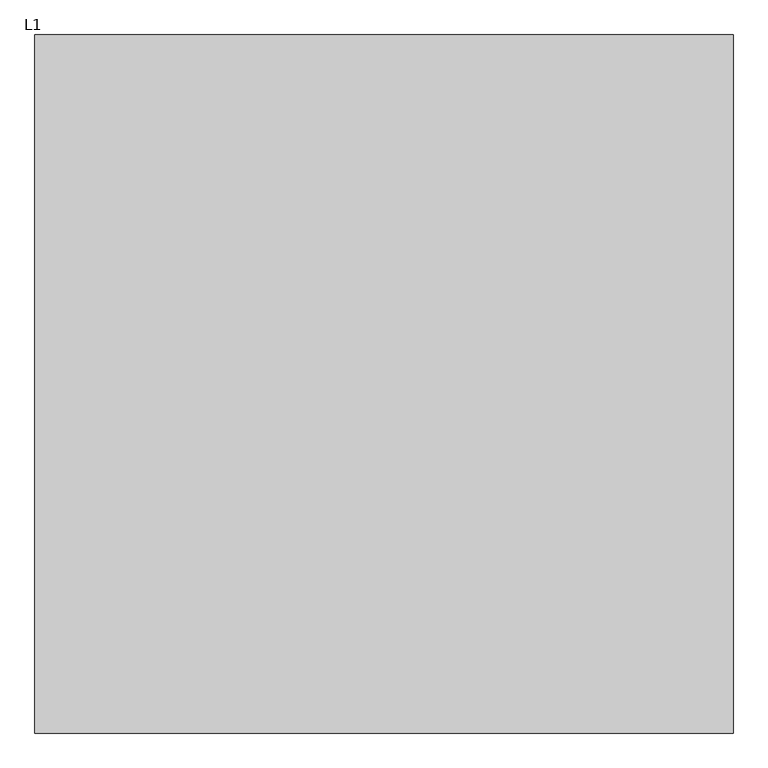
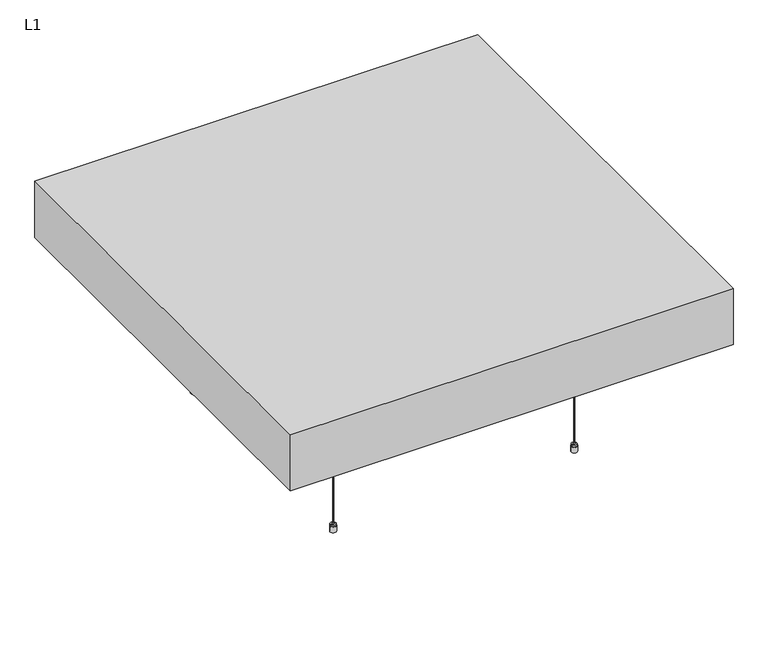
"""IFC4 building model written with IfcOpenShell, lengths in millimetres: proxy geometry, OWA Corpus : L1."""

from ifc_helpers import new_model, si_unit, point, frame, frame_2d, origin, place, context, project, spatial, polyline, circle_curve, trimmed, segment, composite_curve, outline, extrude, faceted_brep, source, transform, mapped, element, save
from ifc_brep_helpers import plane_surface, cylinder_surface, revolved_surface, advanced_brep


def l1_61a87858(model_context):
    return source(origin(), model_context, "Body", "SolidModel", [
        advanced_brep(
        [(-128.5, -305.0, 0.0), (-120.7593825, -305.0, 0.0), (-136.2406175, -305.0, 0.0), (-120.7593825, -305.0, 15.0), (-136.2406175, -305.0, 15.0), (-121.6843825, -305.0, 15.0), (-135.3156175, -305.0, 15.0), (-121.6843825, -305.0, 19.0), (-135.3156175, -305.0, 19.0), (-126.4343825, -305.0, 19.0), (-130.5656175, -305.0, 19.0), (-126.4343825, -305.0, 22.546183), (-130.5656175, -305.0, 22.546183), (-128.5, -305.0, 22.546183)],
        [
            (0, 1),
            (1, 2, circle_curve(frame((-128.5, -305.0, 0.0), z_axis=(0.0, 0.0, -1.0), x_axis=(-1.0, 0.0, 0.0)), 7.7406175)),
            (2, 0),
            (2, 1, circle_curve(frame((-128.5, -305.0, 0.0), z_axis=(0.0, 0.0, -1.0), x_axis=(-1.0, 0.0, 0.0)), 7.7406175)),
            (1, 3),
            (3, 4, circle_curve(frame((-128.5, -305.0, 15.0), z_axis=(0.0, 0.0, -1.0), x_axis=(-1.0, 0.0, 0.0)), 7.7406175)),
            (4, 2),
            (4, 3, circle_curve(frame((-128.5, -305.0, 15.0), z_axis=(0.0, 0.0, -1.0), x_axis=(-1.0, 0.0, 0.0)), 7.7406175)),
            (3, 5),
            (5, 6, circle_curve(frame((-128.5, -305.0, 15.0), z_axis=(0.0, 0.0, -1.0), x_axis=(-1.0, 0.0, 0.0)), 6.8156175)),
            (6, 4),
            (6, 5, circle_curve(frame((-128.5, -305.0, 15.0), z_axis=(0.0, 0.0, -1.0), x_axis=(-1.0, 0.0, 0.0)), 6.8156175)),
            (5, 7),
            (7, 8, circle_curve(frame((-128.5, -305.0, 19.0), z_axis=(0.0, 0.0, -1.0), x_axis=(-1.0, 0.0, 0.0)), 6.8156175)),
            (8, 6),
            (8, 7, circle_curve(frame((-128.5, -305.0, 19.0), z_axis=(0.0, 0.0, -1.0), x_axis=(-1.0, 0.0, 0.0)), 6.8156175)),
            (7, 9),
            (9, 10, circle_curve(frame((-128.5, -305.0, 19.0), z_axis=(0.0, 0.0, -1.0), x_axis=(-1.0, 0.0, 0.0)), 2.0656175)),
            (10, 8),
            (10, 9, circle_curve(frame((-128.5, -305.0, 19.0), z_axis=(0.0, 0.0, -1.0), x_axis=(-1.0, 0.0, 0.0)), 2.0656175)),
            (9, 11),
            (11, 12, circle_curve(frame((-128.5, -305.0, 22.546183), z_axis=(0.0, 0.0, -1.0), x_axis=(-1.0, 0.0, 0.0)), 2.0656175)),
            (12, 10),
            (12, 11, circle_curve(frame((-128.5, -305.0, 22.546183), z_axis=(0.0, 0.0, -1.0), x_axis=(-1.0, 0.0, 0.0)), 2.0656175)),
            (11, 13),
            (13, 12),
        ],
        [
            plane_surface(frame((-128.5, -305.0, 0.0), z_axis=(0.0, 0.0, -1.0), x_axis=(-1.0, 0.0, 0.0))),
            cylinder_surface(frame((-128.5, -305.0, -10.0), z_axis=(0.0, 0.0, -1.0), x_axis=(-1.0, 0.0, 0.0)), 7.7406175),
            plane_surface(frame((-128.5, -305.0, 15.0), z_axis=(0.0, 0.0, 1.0), x_axis=(-1.0, 0.0, 0.0))),
            cylinder_surface(frame((-128.5, -305.0, -10.0), z_axis=(0.0, 0.0, -1.0), x_axis=(-1.0, 0.0, 0.0)), 6.8156175),
            plane_surface(frame((-128.5, -305.0, 19.0), z_axis=(0.0, 0.0, 1.0), x_axis=(-1.0, 0.0, 0.0))),
            cylinder_surface(frame((-128.5, -305.0, -10.0), z_axis=(0.0, 0.0, -1.0), x_axis=(-1.0, 0.0, 0.0)), 2.0656175),
            plane_surface(frame((-128.5, -305.0, 22.546183), z_axis=(0.0, 0.0, 1.0), x_axis=(-1.0, 0.0, 0.0))),
        ],
        [
            (0, [[1, 2, 3]]),
            (0, [[-3, 4, -1]]),
            (1, [[5, 6, 7, -2]]),
            (1, [[-7, 8, -5, -4]]),
            (2, [[9, 10, 11, -6]]),
            (2, [[-11, 12, -9, -8]]),
            (3, [[13, 14, 15, -10]]),
            (3, [[-15, 16, -13, -12]]),
            (4, [[17, 18, 19, -14]]),
            (4, [[-19, 20, -17, -16]]),
            (5, [[21, 22, 23, -18]]),
            (5, [[-23, 24, -21, -20]]),
            (6, [[25, 26, -22]]),
            (6, [[-26, -25, -24]]),
        ],
    ),
        advanced_brep(
        [(-126.2615389, -305.0, 428.8211737), (-126.1339453, -305.0, 432.8711737), (-130.8660547, -305.0, 432.8711737), (-130.7384611, -305.0, 428.8211737), (-123.6339453, -305.0, 432.8711737), (-133.3660547, -305.0, 432.8711737), (-123.6339453, -305.0, 458.1211737), (-133.3660547, -305.0, 458.1211737), (-112.6339453, -305.0, 458.1211737), (-144.3660547, -305.0, 458.1211737), (-112.6339453, -305.0, 460.0), (-144.3660547, -305.0, 460.0), (-128.5, -305.0, 460.0), (-128.5, -305.0, 428.8211737)],
        [
            (0, 1),
            (1, 2, circle_curve(frame((-128.5, -305.0, 432.8711737), z_axis=(0.0, 0.0, -1.0), x_axis=(-1.0, 0.0, 0.0)), 2.3660547)),
            (2, 3),
            (3, 0, circle_curve(frame((-128.5, -305.0, 428.8211737), z_axis=(0.0, 0.0, 1.0), x_axis=(-1.0, 0.0, 0.0)), 2.2384611)),
            (2, 1, circle_curve(frame((-128.5, -305.0, 432.8711737), z_axis=(0.0, 0.0, -1.0), x_axis=(-1.0, 0.0, 0.0)), 2.3660547)),
            (0, 3, circle_curve(frame((-128.5, -305.0, 428.8211737), z_axis=(0.0, 0.0, 1.0), x_axis=(-1.0, 0.0, 0.0)), 2.2384611)),
            (1, 4),
            (4, 5, circle_curve(frame((-128.5, -305.0, 432.8711737), z_axis=(0.0, 0.0, -1.0), x_axis=(-1.0, 0.0, 0.0)), 4.8660547)),
            (5, 2),
            (5, 4, circle_curve(frame((-128.5, -305.0, 432.8711737), z_axis=(0.0, 0.0, -1.0), x_axis=(-1.0, 0.0, 0.0)), 4.8660547)),
            (4, 6),
            (6, 7, circle_curve(frame((-128.5, -305.0, 458.1211737), z_axis=(0.0, 0.0, -1.0), x_axis=(-1.0, 0.0, 0.0)), 4.8660547)),
            (7, 5),
            (7, 6, circle_curve(frame((-128.5, -305.0, 458.1211737), z_axis=(0.0, 0.0, -1.0), x_axis=(-1.0, 0.0, 0.0)), 4.8660547)),
            (6, 8),
            (8, 9, circle_curve(frame((-128.5, -305.0, 458.1211737), z_axis=(0.0, 0.0, -1.0), x_axis=(-1.0, 0.0, 0.0)), 15.8660547)),
            (9, 7),
            (9, 8, circle_curve(frame((-128.5, -305.0, 458.1211737), z_axis=(0.0, 0.0, -1.0), x_axis=(-1.0, 0.0, 0.0)), 15.8660547)),
            (8, 10),
            (10, 11, circle_curve(frame((-128.5, -305.0, 460.0), z_axis=(0.0, 0.0, -1.0), x_axis=(-1.0, 0.0, 0.0)), 15.8660547)),
            (11, 9),
            (11, 10, circle_curve(frame((-128.5, -305.0, 460.0), z_axis=(0.0, 0.0, -1.0), x_axis=(-1.0, 0.0, 0.0)), 15.8660547)),
            (10, 12),
            (12, 11),
            (13, 0),
            (3, 13),
        ],
        [
            revolved_surface(polyline([(-130.8660547, -305.0, 432.8711737), (-130.7384611, -305.0, 428.8211737)]), (-128.5, -305.0, 461.8401096), (0.0, 0.0, -1.0)),
            plane_surface(frame((-128.5, -305.0, 432.8711737), z_axis=(0.0, 0.0, -1.0), x_axis=(-1.0, 0.0, 0.0))),
            cylinder_surface(frame((-128.5, -305.0, 461.8401096), z_axis=(0.0, 0.0, -1.0), x_axis=(-1.0, 0.0, 0.0)), 4.8660547),
            plane_surface(frame((-128.5, -305.0, 458.1211737), z_axis=(0.0, 0.0, -1.0), x_axis=(-1.0, 0.0, 0.0))),
            cylinder_surface(frame((-128.5, -305.0, 461.8401096), z_axis=(0.0, 0.0, -1.0), x_axis=(-1.0, 0.0, 0.0)), 15.8660547),
            plane_surface(frame((-128.5, -305.0, 460.0), z_axis=(0.0, 0.0, 1.0), x_axis=(-1.0, 0.0, 0.0))),
            plane_surface(frame((-128.5, -305.0, 428.8211737), z_axis=(0.0, 0.0, -1.0), x_axis=(-1.0, 0.0, 0.0))),
        ],
        [
            (0, [[1, 2, 3, 4]]),
            (0, [[-3, 5, -1, 6]]),
            (1, [[7, 8, 9, -2]]),
            (1, [[-9, 10, -7, -5]]),
            (2, [[11, 12, 13, -8]]),
            (2, [[-13, 14, -11, -10]]),
            (3, [[15, 16, 17, -12]]),
            (3, [[-17, 18, -15, -14]]),
            (4, [[19, 20, 21, -16]]),
            (4, [[-21, 22, -19, -18]]),
            (5, [[23, 24, -20]]),
            (5, [[-24, -23, -22]]),
            (6, [[25, -4, 26]]),
            (6, [[-26, -6, -25]]),
        ],
    ),
        extrude(outline(composite_curve([segment(trimmed(circle_curve(frame_2d((-128.5, -305.0)), 1.0), [point((-129.5, -305.0))], [point((-127.5, -305.0))], False, "CARTESIAN"), True, "CONTINUOUS"), segment(trimmed(circle_curve(frame_2d((-128.5, -305.0)), 1.0), [point((-127.5, -305.0))], [point((-129.5, -305.0))], False, "CARTESIAN"), True, "CONTINUOUS")], self_intersect=False)), frame((0.0, 0.0, 22.546183), z_axis=(0.0, 0.0, 1.0), x_axis=(1.0, 0.0, 0.0)), (0.0, 0.0, 1.0), 406.2749908),
        advanced_brep(
        [(-128.5, 305.0, 0.0), (-136.2406175, 305.0, 0.0), (-120.7593825, 305.0, 0.0), (-136.2406175, 305.0, 15.0), (-120.7593825, 305.0, 15.0), (-135.3156175, 305.0, 15.0), (-121.6843825, 305.0, 15.0), (-135.3156175, 305.0, 19.0), (-121.6843825, 305.0, 19.0), (-130.5656175, 305.0, 19.0), (-126.4343825, 305.0, 19.0), (-130.5656175, 305.0, 22.546183), (-126.4343825, 305.0, 22.546183), (-128.5, 305.0, 22.546183)],
        [
            (0, 1),
            (1, 2, circle_curve(frame((-128.5, 305.0, 0.0), z_axis=(0.0, 0.0, -1.0), x_axis=(-1.0, 0.0, 0.0)), 7.7406175)),
            (2, 0),
            (2, 1, circle_curve(frame((-128.5, 305.0, 0.0), z_axis=(0.0, 0.0, -1.0), x_axis=(-1.0, 0.0, 0.0)), 7.7406175)),
            (1, 3),
            (3, 4, circle_curve(frame((-128.5, 305.0, 15.0), z_axis=(0.0, 0.0, -1.0), x_axis=(-1.0, 0.0, 0.0)), 7.7406175)),
            (4, 2),
            (4, 3, circle_curve(frame((-128.5, 305.0, 15.0), z_axis=(0.0, 0.0, -1.0), x_axis=(-1.0, 0.0, 0.0)), 7.7406175)),
            (3, 5),
            (5, 6, circle_curve(frame((-128.5, 305.0, 15.0), z_axis=(0.0, 0.0, -1.0), x_axis=(-1.0, 0.0, 0.0)), 6.8156175)),
            (6, 4),
            (6, 5, circle_curve(frame((-128.5, 305.0, 15.0), z_axis=(0.0, 0.0, -1.0), x_axis=(-1.0, 0.0, 0.0)), 6.8156175)),
            (5, 7),
            (7, 8, circle_curve(frame((-128.5, 305.0, 19.0), z_axis=(0.0, 0.0, -1.0), x_axis=(-1.0, 0.0, 0.0)), 6.8156175)),
            (8, 6),
            (8, 7, circle_curve(frame((-128.5, 305.0, 19.0), z_axis=(0.0, 0.0, -1.0), x_axis=(-1.0, 0.0, 0.0)), 6.8156175)),
            (7, 9),
            (9, 10, circle_curve(frame((-128.5, 305.0, 19.0), z_axis=(0.0, 0.0, -1.0), x_axis=(-1.0, 0.0, 0.0)), 2.0656175)),
            (10, 8),
            (10, 9, circle_curve(frame((-128.5, 305.0, 19.0), z_axis=(0.0, 0.0, -1.0), x_axis=(-1.0, 0.0, 0.0)), 2.0656175)),
            (9, 11),
            (11, 12, circle_curve(frame((-128.5, 305.0, 22.546183), z_axis=(0.0, 0.0, -1.0), x_axis=(-1.0, 0.0, 0.0)), 2.0656175)),
            (12, 10),
            (12, 11, circle_curve(frame((-128.5, 305.0, 22.546183), z_axis=(0.0, 0.0, -1.0), x_axis=(-1.0, 0.0, 0.0)), 2.0656175)),
            (11, 13),
            (13, 12),
        ],
        [
            plane_surface(frame((-128.5, 305.0, 0.0), z_axis=(0.0, 0.0, -1.0), x_axis=(-1.0, 0.0, 0.0))),
            cylinder_surface(frame((-128.5, 305.0, -10.0), z_axis=(0.0, 0.0, -1.0), x_axis=(-1.0, 0.0, 0.0)), 7.7406175),
            plane_surface(frame((-128.5, 305.0, 15.0), z_axis=(0.0, 0.0, 1.0), x_axis=(-1.0, 0.0, 0.0))),
            cylinder_surface(frame((-128.5, 305.0, -10.0), z_axis=(0.0, 0.0, -1.0), x_axis=(-1.0, 0.0, 0.0)), 6.8156175),
            plane_surface(frame((-128.5, 305.0, 19.0), z_axis=(0.0, 0.0, 1.0), x_axis=(-1.0, 0.0, 0.0))),
            cylinder_surface(frame((-128.5, 305.0, -10.0), z_axis=(0.0, 0.0, -1.0), x_axis=(-1.0, 0.0, 0.0)), 2.0656175),
            plane_surface(frame((-128.5, 305.0, 22.546183), z_axis=(0.0, 0.0, 1.0), x_axis=(-1.0, 0.0, 0.0))),
        ],
        [
            (0, [[1, 2, 3]]),
            (0, [[-3, 4, -1]]),
            (1, [[-2, 5, 6, 7]]),
            (1, [[-4, -7, 8, -5]]),
            (2, [[-6, 9, 10, 11]]),
            (2, [[-8, -11, 12, -9]]),
            (3, [[-10, 13, 14, 15]]),
            (3, [[-12, -15, 16, -13]]),
            (4, [[-14, 17, 18, 19]]),
            (4, [[-16, -19, 20, -17]]),
            (5, [[-18, 21, 22, 23]]),
            (5, [[-20, -23, 24, -21]]),
            (6, [[-22, 25, 26]]),
            (6, [[-24, -26, -25]]),
        ],
    ),
        advanced_brep(
        [(-126.2615389, 305.0, 428.8211737), (-130.7384611, 305.0, 428.8211737), (-130.8660547, 305.0, 432.8711737), (-126.1339453, 305.0, 432.8711737), (-133.3660547, 305.0, 432.8711737), (-123.6339453, 305.0, 432.8711737), (-133.3660547, 305.0, 458.1211737), (-123.6339453, 305.0, 458.1211737), (-144.3660547, 305.0, 458.1211737), (-112.6339453, 305.0, 458.1211737), (-144.3660547, 305.0, 460.0), (-112.6339453, 305.0, 460.0), (-128.5, 305.0, 460.0), (-128.5, 305.0, 428.8211737)],
        [
            (0, 1, circle_curve(frame((-128.5, 305.0, 428.8211737), z_axis=(0.0, 0.0, 1.0), x_axis=(-1.0, 0.0, 0.0)), 2.2384611)),
            (1, 2),
            (2, 3, circle_curve(frame((-128.5, 305.0, 432.8711737), z_axis=(0.0, 0.0, -1.0), x_axis=(-1.0, 0.0, 0.0)), 2.3660547)),
            (3, 0),
            (1, 0, circle_curve(frame((-128.5, 305.0, 428.8211737), z_axis=(0.0, 0.0, 1.0), x_axis=(-1.0, 0.0, 0.0)), 2.2384611)),
            (3, 2, circle_curve(frame((-128.5, 305.0, 432.8711737), z_axis=(0.0, 0.0, -1.0), x_axis=(-1.0, 0.0, 0.0)), 2.3660547)),
            (2, 4),
            (4, 5, circle_curve(frame((-128.5, 305.0, 432.8711737), z_axis=(0.0, 0.0, -1.0), x_axis=(-1.0, 0.0, 0.0)), 4.8660547)),
            (5, 3),
            (5, 4, circle_curve(frame((-128.5, 305.0, 432.8711737), z_axis=(0.0, 0.0, -1.0), x_axis=(-1.0, 0.0, 0.0)), 4.8660547)),
            (4, 6),
            (6, 7, circle_curve(frame((-128.5, 305.0, 458.1211737), z_axis=(0.0, 0.0, -1.0), x_axis=(-1.0, 0.0, 0.0)), 4.8660547)),
            (7, 5),
            (7, 6, circle_curve(frame((-128.5, 305.0, 458.1211737), z_axis=(0.0, 0.0, -1.0), x_axis=(-1.0, 0.0, 0.0)), 4.8660547)),
            (6, 8),
            (8, 9, circle_curve(frame((-128.5, 305.0, 458.1211737), z_axis=(0.0, 0.0, -1.0), x_axis=(-1.0, 0.0, 0.0)), 15.8660547)),
            (9, 7),
            (9, 8, circle_curve(frame((-128.5, 305.0, 458.1211737), z_axis=(0.0, 0.0, -1.0), x_axis=(-1.0, 0.0, 0.0)), 15.8660547)),
            (8, 10),
            (10, 11, circle_curve(frame((-128.5, 305.0, 460.0), z_axis=(0.0, 0.0, -1.0), x_axis=(-1.0, 0.0, 0.0)), 15.8660547)),
            (11, 9),
            (11, 10, circle_curve(frame((-128.5, 305.0, 460.0), z_axis=(0.0, 0.0, -1.0), x_axis=(-1.0, 0.0, 0.0)), 15.8660547)),
            (10, 12),
            (12, 11),
            (13, 1),
            (0, 13),
        ],
        [
            revolved_surface(polyline([(-130.8660547, 305.0, 432.8711737), (-130.7384611, 305.0, 428.8211737)]), (-128.5, 305.0, 461.8401096), (0.0, 0.0, -1.0)),
            plane_surface(frame((-128.5, 305.0, 432.8711737), z_axis=(0.0, 0.0, -1.0), x_axis=(-1.0, 0.0, 0.0))),
            cylinder_surface(frame((-128.5, 305.0, 461.8401096), z_axis=(0.0, 0.0, -1.0), x_axis=(-1.0, 0.0, 0.0)), 4.8660547),
            plane_surface(frame((-128.5, 305.0, 458.1211737), z_axis=(0.0, 0.0, -1.0), x_axis=(-1.0, 0.0, 0.0))),
            cylinder_surface(frame((-128.5, 305.0, 461.8401096), z_axis=(0.0, 0.0, -1.0), x_axis=(-1.0, 0.0, 0.0)), 15.8660547),
            plane_surface(frame((-128.5, 305.0, 460.0), z_axis=(0.0, 0.0, 1.0), x_axis=(-1.0, 0.0, 0.0))),
            plane_surface(frame((-128.5, 305.0, 428.8211737), z_axis=(0.0, 0.0, -1.0), x_axis=(-1.0, 0.0, 0.0))),
        ],
        [
            (0, [[1, 2, 3, 4]]),
            (0, [[5, -4, 6, -2]]),
            (1, [[-3, 7, 8, 9]]),
            (1, [[-6, -9, 10, -7]]),
            (2, [[-8, 11, 12, 13]]),
            (2, [[-10, -13, 14, -11]]),
            (3, [[-12, 15, 16, 17]]),
            (3, [[-14, -17, 18, -15]]),
            (4, [[-16, 19, 20, 21]]),
            (4, [[-18, -21, 22, -19]]),
            (5, [[-20, 23, 24]]),
            (5, [[-22, -24, -23]]),
            (6, [[25, -1, 26]]),
            (6, [[-26, -5, -25]]),
        ],
    ),
        extrude(outline(composite_curve([segment(trimmed(circle_curve(frame_2d((-128.5, 305.0)), 1.0), [point((-129.5, 305.0))], [point((-127.5, 305.0))], False, "CARTESIAN"), True, "CONTINUOUS"), segment(trimmed(circle_curve(frame_2d((-128.5, 305.0)), 1.0), [point((-127.5, 305.0))], [point((-129.5, 305.0))], False, "CARTESIAN"), True, "CONTINUOUS")], self_intersect=False)), frame((0.0, 0.0, 22.546183), z_axis=(0.0, 0.0, 1.0), x_axis=(1.0, 0.0, 0.0)), (0.0, 0.0, 1.0), 406.2749908),
        advanced_brep(
        [(-738.5, -305.0, 0.0), (-730.7593825, -305.0, 0.0), (-746.2406175, -305.0, 0.0), (-730.7593825, -305.0, 15.0), (-746.2406175, -305.0, 15.0), (-731.6843825, -305.0, 15.0), (-745.3156175, -305.0, 15.0), (-731.6843825, -305.0, 19.0), (-745.3156175, -305.0, 19.0), (-736.4343825, -305.0, 19.0), (-740.5656175, -305.0, 19.0), (-736.4343825, -305.0, 22.546183), (-740.5656175, -305.0, 22.546183), (-738.5, -305.0, 22.546183)],
        [
            (0, 1),
            (1, 2, circle_curve(frame((-738.5, -305.0, 0.0), z_axis=(0.0, 0.0, -1.0), x_axis=(-1.0, 0.0, 0.0)), 7.7406175)),
            (2, 0),
            (2, 1, circle_curve(frame((-738.5, -305.0, 0.0), z_axis=(0.0, 0.0, -1.0), x_axis=(-1.0, 0.0, 0.0)), 7.7406175)),
            (1, 3),
            (3, 4, circle_curve(frame((-738.5, -305.0, 15.0), z_axis=(0.0, 0.0, -1.0), x_axis=(-1.0, 0.0, 0.0)), 7.7406175)),
            (4, 2),
            (4, 3, circle_curve(frame((-738.5, -305.0, 15.0), z_axis=(0.0, 0.0, -1.0), x_axis=(-1.0, 0.0, 0.0)), 7.7406175)),
            (3, 5),
            (5, 6, circle_curve(frame((-738.5, -305.0, 15.0), z_axis=(0.0, 0.0, -1.0), x_axis=(-1.0, 0.0, 0.0)), 6.8156175)),
            (6, 4),
            (6, 5, circle_curve(frame((-738.5, -305.0, 15.0), z_axis=(0.0, 0.0, -1.0), x_axis=(-1.0, 0.0, 0.0)), 6.8156175)),
            (5, 7),
            (7, 8, circle_curve(frame((-738.5, -305.0, 19.0), z_axis=(0.0, 0.0, -1.0), x_axis=(-1.0, 0.0, 0.0)), 6.8156175)),
            (8, 6),
            (8, 7, circle_curve(frame((-738.5, -305.0, 19.0), z_axis=(0.0, 0.0, -1.0), x_axis=(-1.0, 0.0, 0.0)), 6.8156175)),
            (7, 9),
            (9, 10, circle_curve(frame((-738.5, -305.0, 19.0), z_axis=(0.0, 0.0, -1.0), x_axis=(-1.0, 0.0, 0.0)), 2.0656175)),
            (10, 8),
            (10, 9, circle_curve(frame((-738.5, -305.0, 19.0), z_axis=(0.0, 0.0, -1.0), x_axis=(-1.0, 0.0, 0.0)), 2.0656175)),
            (9, 11),
            (11, 12, circle_curve(frame((-738.5, -305.0, 22.546183), z_axis=(0.0, 0.0, -1.0), x_axis=(-1.0, 0.0, 0.0)), 2.0656175)),
            (12, 10),
            (12, 11, circle_curve(frame((-738.5, -305.0, 22.546183), z_axis=(0.0, 0.0, -1.0), x_axis=(-1.0, 0.0, 0.0)), 2.0656175)),
            (11, 13),
            (13, 12),
        ],
        [
            plane_surface(frame((-738.5, -305.0, 0.0), z_axis=(0.0, 0.0, -1.0), x_axis=(-1.0, 0.0, 0.0))),
            cylinder_surface(frame((-738.5, -305.0, -10.0), z_axis=(0.0, 0.0, -1.0), x_axis=(-1.0, 0.0, 0.0)), 7.7406175),
            plane_surface(frame((-738.5, -305.0, 15.0), z_axis=(0.0, 0.0, 1.0), x_axis=(-1.0, 0.0, 0.0))),
            cylinder_surface(frame((-738.5, -305.0, -10.0), z_axis=(0.0, 0.0, -1.0), x_axis=(-1.0, 0.0, 0.0)), 6.8156175),
            plane_surface(frame((-738.5, -305.0, 19.0), z_axis=(0.0, 0.0, 1.0), x_axis=(-1.0, 0.0, 0.0))),
            cylinder_surface(frame((-738.5, -305.0, -10.0), z_axis=(0.0, 0.0, -1.0), x_axis=(-1.0, 0.0, 0.0)), 2.0656175),
            plane_surface(frame((-738.5, -305.0, 22.546183), z_axis=(0.0, 0.0, 1.0), x_axis=(-1.0, 0.0, 0.0))),
        ],
        [
            (0, [[1, 2, 3]]),
            (0, [[-3, 4, -1]]),
            (1, [[5, 6, 7, -2]]),
            (1, [[-7, 8, -5, -4]]),
            (2, [[9, 10, 11, -6]]),
            (2, [[-11, 12, -9, -8]]),
            (3, [[13, 14, 15, -10]]),
            (3, [[-15, 16, -13, -12]]),
            (4, [[17, 18, 19, -14]]),
            (4, [[-19, 20, -17, -16]]),
            (5, [[21, 22, 23, -18]]),
            (5, [[-23, 24, -21, -20]]),
            (6, [[25, 26, -22]]),
            (6, [[-26, -25, -24]]),
        ],
    ),
        advanced_brep(
        [(-736.2615389, -305.0, 428.8211737), (-736.1339453, -305.0, 432.8711737), (-740.8660547, -305.0, 432.8711737), (-740.7384611, -305.0, 428.8211737), (-733.6339453, -305.0, 432.8711737), (-743.3660547, -305.0, 432.8711737), (-733.6339453, -305.0, 458.1211737), (-743.3660547, -305.0, 458.1211737), (-722.6339453, -305.0, 458.1211737), (-754.3660547, -305.0, 458.1211737), (-722.6339453, -305.0, 460.0), (-754.3660547, -305.0, 460.0), (-738.5, -305.0, 460.0), (-738.5, -305.0, 428.8211737)],
        [
            (0, 1),
            (1, 2, circle_curve(frame((-738.5, -305.0, 432.8711737), z_axis=(0.0, 0.0, -1.0), x_axis=(-1.0, 0.0, 0.0)), 2.3660547)),
            (2, 3),
            (3, 0, circle_curve(frame((-738.5, -305.0, 428.8211737), z_axis=(0.0, 0.0, 1.0), x_axis=(-1.0, 0.0, 0.0)), 2.2384611)),
            (2, 1, circle_curve(frame((-738.5, -305.0, 432.8711737), z_axis=(0.0, 0.0, -1.0), x_axis=(-1.0, 0.0, 0.0)), 2.3660547)),
            (0, 3, circle_curve(frame((-738.5, -305.0, 428.8211737), z_axis=(0.0, 0.0, 1.0), x_axis=(-1.0, 0.0, 0.0)), 2.2384611)),
            (1, 4),
            (4, 5, circle_curve(frame((-738.5, -305.0, 432.8711737), z_axis=(0.0, 0.0, -1.0), x_axis=(-1.0, 0.0, 0.0)), 4.8660547)),
            (5, 2),
            (5, 4, circle_curve(frame((-738.5, -305.0, 432.8711737), z_axis=(0.0, 0.0, -1.0), x_axis=(-1.0, 0.0, 0.0)), 4.8660547)),
            (4, 6),
            (6, 7, circle_curve(frame((-738.5, -305.0, 458.1211737), z_axis=(0.0, 0.0, -1.0), x_axis=(-1.0, 0.0, 0.0)), 4.8660547)),
            (7, 5),
            (7, 6, circle_curve(frame((-738.5, -305.0, 458.1211737), z_axis=(0.0, 0.0, -1.0), x_axis=(-1.0, 0.0, 0.0)), 4.8660547)),
            (6, 8),
            (8, 9, circle_curve(frame((-738.5, -305.0, 458.1211737), z_axis=(0.0, 0.0, -1.0), x_axis=(-1.0, 0.0, 0.0)), 15.8660547)),
            (9, 7),
            (9, 8, circle_curve(frame((-738.5, -305.0, 458.1211737), z_axis=(0.0, 0.0, -1.0), x_axis=(-1.0, 0.0, 0.0)), 15.8660547)),
            (8, 10),
            (10, 11, circle_curve(frame((-738.5, -305.0, 460.0), z_axis=(0.0, 0.0, -1.0), x_axis=(-1.0, 0.0, 0.0)), 15.8660547)),
            (11, 9),
            (11, 10, circle_curve(frame((-738.5, -305.0, 460.0), z_axis=(0.0, 0.0, -1.0), x_axis=(-1.0, 0.0, 0.0)), 15.8660547)),
            (10, 12),
            (12, 11),
            (13, 0),
            (3, 13),
        ],
        [
            revolved_surface(polyline([(-740.8660547, -305.0, 432.8711737), (-740.7384611, -305.0, 428.8211737)]), (-738.5, -305.0, 461.8401096), (0.0, 0.0, -1.0)),
            plane_surface(frame((-738.5, -305.0, 432.8711737), z_axis=(0.0, 0.0, -1.0), x_axis=(-1.0, 0.0, 0.0))),
            cylinder_surface(frame((-738.5, -305.0, 461.8401096), z_axis=(0.0, 0.0, -1.0), x_axis=(-1.0, 0.0, 0.0)), 4.8660547),
            plane_surface(frame((-738.5, -305.0, 458.1211737), z_axis=(0.0, 0.0, -1.0), x_axis=(-1.0, 0.0, 0.0))),
            cylinder_surface(frame((-738.5, -305.0, 461.8401096), z_axis=(0.0, 0.0, -1.0), x_axis=(-1.0, 0.0, 0.0)), 15.8660547),
            plane_surface(frame((-738.5, -305.0, 460.0), z_axis=(0.0, 0.0, 1.0), x_axis=(-1.0, 0.0, 0.0))),
            plane_surface(frame((-738.5, -305.0, 428.8211737), z_axis=(0.0, 0.0, -1.0), x_axis=(-1.0, 0.0, 0.0))),
        ],
        [
            (0, [[1, 2, 3, 4]]),
            (0, [[-3, 5, -1, 6]]),
            (1, [[7, 8, 9, -2]]),
            (1, [[-9, 10, -7, -5]]),
            (2, [[11, 12, 13, -8]]),
            (2, [[-13, 14, -11, -10]]),
            (3, [[15, 16, 17, -12]]),
            (3, [[-17, 18, -15, -14]]),
            (4, [[19, 20, 21, -16]]),
            (4, [[-21, 22, -19, -18]]),
            (5, [[23, 24, -20]]),
            (5, [[-24, -23, -22]]),
            (6, [[25, -4, 26]]),
            (6, [[-26, -6, -25]]),
        ],
    ),
        extrude(outline(composite_curve([segment(trimmed(circle_curve(frame_2d((-738.5, -305.0)), 1.0), [point((-739.5, -305.0))], [point((-737.5, -305.0))], False, "CARTESIAN"), True, "CONTINUOUS"), segment(trimmed(circle_curve(frame_2d((-738.5, -305.0)), 1.0), [point((-737.5, -305.0))], [point((-739.5, -305.0))], False, "CARTESIAN"), True, "CONTINUOUS")], self_intersect=False)), frame((0.0, 0.0, 22.546183), z_axis=(0.0, 0.0, 1.0), x_axis=(1.0, 0.0, 0.0)), (0.0, 0.0, 1.0), 406.2749908),
        advanced_brep(
        [(-738.5, 305.0, 0.0), (-746.2406175, 305.0, 0.0), (-730.7593825, 305.0, 0.0), (-746.2406175, 305.0, 15.0), (-730.7593825, 305.0, 15.0), (-745.3156175, 305.0, 15.0), (-731.6843825, 305.0, 15.0), (-745.3156175, 305.0, 19.0), (-731.6843825, 305.0, 19.0), (-740.5656175, 305.0, 19.0), (-736.4343825, 305.0, 19.0), (-740.5656175, 305.0, 22.546183), (-736.4343825, 305.0, 22.546183), (-738.5, 305.0, 22.546183)],
        [
            (0, 1),
            (1, 2, circle_curve(frame((-738.5, 305.0, 0.0), z_axis=(0.0, 0.0, -1.0), x_axis=(-1.0, 0.0, 0.0)), 7.7406175)),
            (2, 0),
            (2, 1, circle_curve(frame((-738.5, 305.0, 0.0), z_axis=(0.0, 0.0, -1.0), x_axis=(-1.0, 0.0, 0.0)), 7.7406175)),
            (1, 3),
            (3, 4, circle_curve(frame((-738.5, 305.0, 15.0), z_axis=(0.0, 0.0, -1.0), x_axis=(-1.0, 0.0, 0.0)), 7.7406175)),
            (4, 2),
            (4, 3, circle_curve(frame((-738.5, 305.0, 15.0), z_axis=(0.0, 0.0, -1.0), x_axis=(-1.0, 0.0, 0.0)), 7.7406175)),
            (3, 5),
            (5, 6, circle_curve(frame((-738.5, 305.0, 15.0), z_axis=(0.0, 0.0, -1.0), x_axis=(-1.0, 0.0, 0.0)), 6.8156175)),
            (6, 4),
            (6, 5, circle_curve(frame((-738.5, 305.0, 15.0), z_axis=(0.0, 0.0, -1.0), x_axis=(-1.0, 0.0, 0.0)), 6.8156175)),
            (5, 7),
            (7, 8, circle_curve(frame((-738.5, 305.0, 19.0), z_axis=(0.0, 0.0, -1.0), x_axis=(-1.0, 0.0, 0.0)), 6.8156175)),
            (8, 6),
            (8, 7, circle_curve(frame((-738.5, 305.0, 19.0), z_axis=(0.0, 0.0, -1.0), x_axis=(-1.0, 0.0, 0.0)), 6.8156175)),
            (7, 9),
            (9, 10, circle_curve(frame((-738.5, 305.0, 19.0), z_axis=(0.0, 0.0, -1.0), x_axis=(-1.0, 0.0, 0.0)), 2.0656175)),
            (10, 8),
            (10, 9, circle_curve(frame((-738.5, 305.0, 19.0), z_axis=(0.0, 0.0, -1.0), x_axis=(-1.0, 0.0, 0.0)), 2.0656175)),
            (9, 11),
            (11, 12, circle_curve(frame((-738.5, 305.0, 22.546183), z_axis=(0.0, 0.0, -1.0), x_axis=(-1.0, 0.0, 0.0)), 2.0656175)),
            (12, 10),
            (12, 11, circle_curve(frame((-738.5, 305.0, 22.546183), z_axis=(0.0, 0.0, -1.0), x_axis=(-1.0, 0.0, 0.0)), 2.0656175)),
            (11, 13),
            (13, 12),
        ],
        [
            plane_surface(frame((-738.5, 305.0, 0.0), z_axis=(0.0, 0.0, -1.0), x_axis=(-1.0, 0.0, 0.0))),
            cylinder_surface(frame((-738.5, 305.0, -10.0), z_axis=(0.0, 0.0, -1.0), x_axis=(-1.0, 0.0, 0.0)), 7.7406175),
            plane_surface(frame((-738.5, 305.0, 15.0), z_axis=(0.0, 0.0, 1.0), x_axis=(-1.0, 0.0, 0.0))),
            cylinder_surface(frame((-738.5, 305.0, -10.0), z_axis=(0.0, 0.0, -1.0), x_axis=(-1.0, 0.0, 0.0)), 6.8156175),
            plane_surface(frame((-738.5, 305.0, 19.0), z_axis=(0.0, 0.0, 1.0), x_axis=(-1.0, 0.0, 0.0))),
            cylinder_surface(frame((-738.5, 305.0, -10.0), z_axis=(0.0, 0.0, -1.0), x_axis=(-1.0, 0.0, 0.0)), 2.0656175),
            plane_surface(frame((-738.5, 305.0, 22.546183), z_axis=(0.0, 0.0, 1.0), x_axis=(-1.0, 0.0, 0.0))),
        ],
        [
            (0, [[1, 2, 3]]),
            (0, [[-3, 4, -1]]),
            (1, [[-2, 5, 6, 7]]),
            (1, [[-4, -7, 8, -5]]),
            (2, [[-6, 9, 10, 11]]),
            (2, [[-8, -11, 12, -9]]),
            (3, [[-10, 13, 14, 15]]),
            (3, [[-12, -15, 16, -13]]),
            (4, [[-14, 17, 18, 19]]),
            (4, [[-16, -19, 20, -17]]),
            (5, [[-18, 21, 22, 23]]),
            (5, [[-20, -23, 24, -21]]),
            (6, [[-22, 25, 26]]),
            (6, [[-24, -26, -25]]),
        ],
    ),
        advanced_brep(
        [(-736.2615389, 305.0, 428.8211737), (-740.7384611, 305.0, 428.8211737), (-740.8660547, 305.0, 432.8711737), (-736.1339453, 305.0, 432.8711737), (-743.3660547, 305.0, 432.8711737), (-733.6339453, 305.0, 432.8711737), (-743.3660547, 305.0, 458.1211737), (-733.6339453, 305.0, 458.1211737), (-754.3660547, 305.0, 458.1211737), (-722.6339453, 305.0, 458.1211737), (-754.3660547, 305.0, 460.0), (-722.6339453, 305.0, 460.0), (-738.5, 305.0, 460.0), (-738.5, 305.0, 428.8211737)],
        [
            (0, 1, circle_curve(frame((-738.5, 305.0, 428.8211737), z_axis=(0.0, 0.0, 1.0), x_axis=(-1.0, 0.0, 0.0)), 2.2384611)),
            (1, 2),
            (2, 3, circle_curve(frame((-738.5, 305.0, 432.8711737), z_axis=(0.0, 0.0, -1.0), x_axis=(-1.0, 0.0, 0.0)), 2.3660547)),
            (3, 0),
            (1, 0, circle_curve(frame((-738.5, 305.0, 428.8211737), z_axis=(0.0, 0.0, 1.0), x_axis=(-1.0, 0.0, 0.0)), 2.2384611)),
            (3, 2, circle_curve(frame((-738.5, 305.0, 432.8711737), z_axis=(0.0, 0.0, -1.0), x_axis=(-1.0, 0.0, 0.0)), 2.3660547)),
            (2, 4),
            (4, 5, circle_curve(frame((-738.5, 305.0, 432.8711737), z_axis=(0.0, 0.0, -1.0), x_axis=(-1.0, 0.0, 0.0)), 4.8660547)),
            (5, 3),
            (5, 4, circle_curve(frame((-738.5, 305.0, 432.8711737), z_axis=(0.0, 0.0, -1.0), x_axis=(-1.0, 0.0, 0.0)), 4.8660547)),
            (4, 6),
            (6, 7, circle_curve(frame((-738.5, 305.0, 458.1211737), z_axis=(0.0, 0.0, -1.0), x_axis=(-1.0, 0.0, 0.0)), 4.8660547)),
            (7, 5),
            (7, 6, circle_curve(frame((-738.5, 305.0, 458.1211737), z_axis=(0.0, 0.0, -1.0), x_axis=(-1.0, 0.0, 0.0)), 4.8660547)),
            (6, 8),
            (8, 9, circle_curve(frame((-738.5, 305.0, 458.1211737), z_axis=(0.0, 0.0, -1.0), x_axis=(-1.0, 0.0, 0.0)), 15.8660547)),
            (9, 7),
            (9, 8, circle_curve(frame((-738.5, 305.0, 458.1211737), z_axis=(0.0, 0.0, -1.0), x_axis=(-1.0, 0.0, 0.0)), 15.8660547)),
            (8, 10),
            (10, 11, circle_curve(frame((-738.5, 305.0, 460.0), z_axis=(0.0, 0.0, -1.0), x_axis=(-1.0, 0.0, 0.0)), 15.8660547)),
            (11, 9),
            (11, 10, circle_curve(frame((-738.5, 305.0, 460.0), z_axis=(0.0, 0.0, -1.0), x_axis=(-1.0, 0.0, 0.0)), 15.8660547)),
            (10, 12),
            (12, 11),
            (13, 1),
            (0, 13),
        ],
        [
            revolved_surface(polyline([(-740.8660547, 305.0, 432.8711737), (-740.7384611, 305.0, 428.8211737)]), (-738.5, 305.0, 461.8401096), (0.0, 0.0, -1.0)),
            plane_surface(frame((-738.5, 305.0, 432.8711737), z_axis=(0.0, 0.0, -1.0), x_axis=(-1.0, 0.0, 0.0))),
            cylinder_surface(frame((-738.5, 305.0, 461.8401096), z_axis=(0.0, 0.0, -1.0), x_axis=(-1.0, 0.0, 0.0)), 4.8660547),
            plane_surface(frame((-738.5, 305.0, 458.1211737), z_axis=(0.0, 0.0, -1.0), x_axis=(-1.0, 0.0, 0.0))),
            cylinder_surface(frame((-738.5, 305.0, 461.8401096), z_axis=(0.0, 0.0, -1.0), x_axis=(-1.0, 0.0, 0.0)), 15.8660547),
            plane_surface(frame((-738.5, 305.0, 460.0), z_axis=(0.0, 0.0, 1.0), x_axis=(-1.0, 0.0, 0.0))),
            plane_surface(frame((-738.5, 305.0, 428.8211737), z_axis=(0.0, 0.0, -1.0), x_axis=(-1.0, 0.0, 0.0))),
        ],
        [
            (0, [[1, 2, 3, 4]]),
            (0, [[5, -4, 6, -2]]),
            (1, [[-3, 7, 8, 9]]),
            (1, [[-6, -9, 10, -7]]),
            (2, [[-8, 11, 12, 13]]),
            (2, [[-10, -13, 14, -11]]),
            (3, [[-12, 15, 16, 17]]),
            (3, [[-14, -17, 18, -15]]),
            (4, [[-16, 19, 20, 21]]),
            (4, [[-18, -21, 22, -19]]),
            (5, [[-20, 23, 24]]),
            (5, [[-22, -24, -23]]),
            (6, [[25, -1, 26]]),
            (6, [[-26, -5, -25]]),
        ],
    ),
        extrude(outline(composite_curve([segment(trimmed(circle_curve(frame_2d((-738.5, 305.0)), 1.0), [point((-739.5, 305.0))], [point((-737.5, 305.0))], False, "CARTESIAN"), True, "CONTINUOUS"), segment(trimmed(circle_curve(frame_2d((-738.5, 305.0)), 1.0), [point((-737.5, 305.0))], [point((-739.5, 305.0))], False, "CARTESIAN"), True, "CONTINUOUS")], self_intersect=False)), frame((0.0, 0.0, 22.546183), z_axis=(0.0, 0.0, 1.0), x_axis=(1.0, 0.0, 0.0)), (0.0, 0.0, 1.0), 406.2749908),
        faceted_brep([(126.5, 560.0, 500.0), (-993.5, 560.0, 500.0), (-993.5, -560.0, 500.0), (126.5, -560.0, 500.0), (86.5, 520.0, 460.0), (86.5, -520.0, 460.0), (-953.5, -520.0, 460.0), (-953.5, 520.0, 460.0), (126.5, 560.0, 350.0), (-993.5, 560.0, 350.0), (-993.5, -560.0, 350.0), (126.5, -560.0, 350.0), (86.5, 520.0, 350.0), (-953.5, 520.0, 350.0), (-953.5, -520.0, 350.0), (86.5, -520.0, 350.0)], [[[0, 1, 2, 3]], [[4, 5, 6, 7]], [[1, 0, 8, 9]], [[2, 1, 9, 10]], [[3, 2, 10, 11]], [[8, 0, 3, 11]], [[8, 11, 10, 9], [12, 13, 14, 15]], [[12, 15, 5, 4]], [[15, 14, 6, 5]], [[14, 13, 7, 6]], [[13, 12, 4, 7]]]),
    ])


if __name__ == "__main__":
    model = new_model("IFC4")
    model_context = context("Model", 3, world=origin())
    ifc_project = project(units=[si_unit("LENGTHUNIT", "METRE", prefix="MILLI")], contexts=[model_context])
    site = spatial("IfcSite", under=ifc_project)
    building = spatial("IfcBuilding", under=site)
    placement = place(None, origin())
    l1_shape = l1_61a87858(model_context)
    element("IfcBuildingElementProxy", 1, Name="OWA Corpus : L1", ObjectType="OWA Corpus : L1", at=placement, inside=building, context=model_context, shape_type="MappedRepresentation", body=[
        mapped(l1_shape, transform((0.0, 0.0, 0.0), x_axis=(1.0, 0.0, 0.0), y_axis=(0.0, 1.0, 0.0), z_axis=(0.0, 0.0, 1.0))),
    ])
    save(model, "model.ifc")
